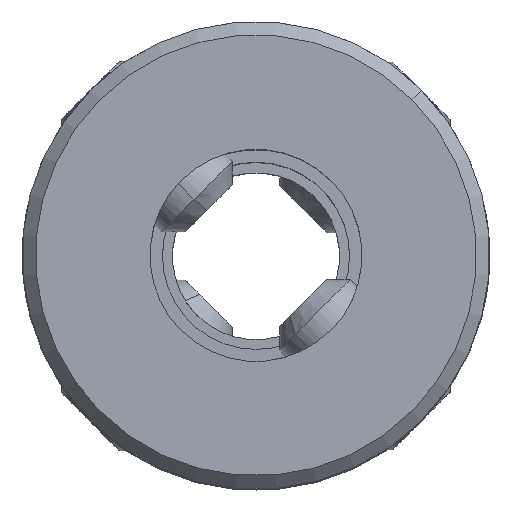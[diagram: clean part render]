
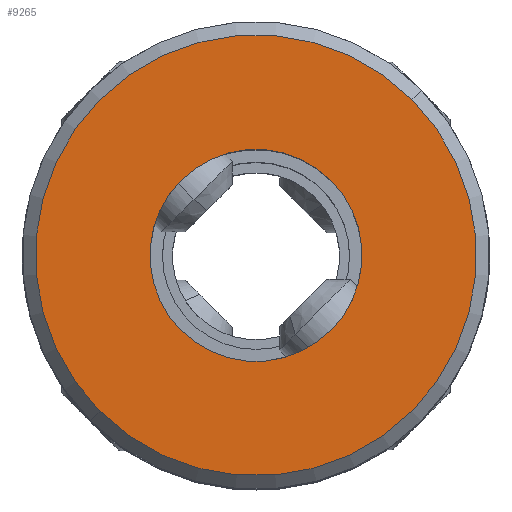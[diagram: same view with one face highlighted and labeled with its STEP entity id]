
A CAD part, top view. The second image highlights one B-rep face of the part: STEP entity #9265.
In plain terms, the highlighted planar face has unit normal (0, 0, 1).
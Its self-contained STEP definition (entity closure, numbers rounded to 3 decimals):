
#157 = FACE_OUTER_BOUND ( 'NONE', #5051, .T. ) ;
#212 = AXIS2_PLACEMENT_3D ( 'NONE', #8961, #2303, #8926 ) ;
#244 = DIRECTION ( 'NONE',  ( -0.707, -0.707, 0. ) ) ;
#1014 = EDGE_LOOP ( 'NONE', ( #4483, #5687 ) ) ;
#1698 = DIRECTION ( 'NONE',  ( 0., 0., -1. ) ) ;
#1745 = DIRECTION ( 'NONE',  ( -0.707, -0.707, 0. ) ) ;
#1840 = EDGE_CURVE ( 'NONE', #8508, #2582, #6063, .T. ) ;
#1898 = CARTESIAN_POINT ( 'NONE',  ( 0., 0., 11. ) ) ;
#2004 = CARTESIAN_POINT ( 'NONE',  ( -2.245, -2.245, 11. ) ) ;
#2110 = AXIS2_PLACEMENT_3D ( 'NONE', #2495, #1698, #7550 ) ;
#2303 = DIRECTION ( 'NONE',  ( 0., 0., -1. ) ) ;
#2310 = ORIENTED_EDGE ( 'NONE', *, *, #1840, .T. ) ;
#2486 = CARTESIAN_POINT ( 'NONE',  ( 0., 0., 11. ) ) ;
#2495 = CARTESIAN_POINT ( 'NONE',  ( 0., 0., 11. ) ) ;
#2582 = VERTEX_POINT ( 'NONE', #7203 ) ;
#2784 = DIRECTION ( 'NONE',  ( 0., 0., 1. ) ) ;
#3268 = AXIS2_PLACEMENT_3D ( 'NONE', #1898, #2784, #244 ) ;
#4049 = DIRECTION ( 'NONE',  ( -0.707, -0.707, 0. ) ) ;
#4052 = PLANE ( 'NONE',  #212 ) ;
#4208 = FACE_BOUND ( 'NONE', #1014, .T. ) ;
#4483 = ORIENTED_EDGE ( 'NONE', *, *, #5853, .T. ) ;
#5025 = CARTESIAN_POINT ( 'NONE',  ( 0., 0., 11. ) ) ;
#5051 = EDGE_LOOP ( 'NONE', ( #9185, #2310 ) ) ;
#5543 = CARTESIAN_POINT ( 'NONE',  ( 4.667, 4.667, 11. ) ) ;
#5687 = ORIENTED_EDGE ( 'NONE', *, *, #8266, .T. ) ;
#5853 = EDGE_CURVE ( 'NONE', #7697, #7392, #8423, .T. ) ;
#6063 = CIRCLE ( 'NONE', #6086, 6.6 ) ;
#6086 = AXIS2_PLACEMENT_3D ( 'NONE', #2486, #8288, #4049 ) ;
#6274 = EDGE_CURVE ( 'NONE', #2582, #8508, #7275, .T. ) ;
#7203 = CARTESIAN_POINT ( 'NONE',  ( -4.667, -4.667, 11. ) ) ;
#7275 = CIRCLE ( 'NONE', #3268, 6.6 ) ;
#7392 = VERTEX_POINT ( 'NONE', #8121 ) ;
#7488 = CIRCLE ( 'NONE', #2110, 3.175 ) ;
#7550 = DIRECTION ( 'NONE',  ( -0.707, -0.707, 0. ) ) ;
#7697 = VERTEX_POINT ( 'NONE', #2004 ) ;
#8121 = CARTESIAN_POINT ( 'NONE',  ( 2.245, 2.245, 11. ) ) ;
#8266 = EDGE_CURVE ( 'NONE', #7392, #7697, #7488, .T. ) ;
#8288 = DIRECTION ( 'NONE',  ( 0., 0., 1. ) ) ;
#8423 = CIRCLE ( 'NONE', #8765, 3.175 ) ;
#8508 = VERTEX_POINT ( 'NONE', #5543 ) ;
#8765 = AXIS2_PLACEMENT_3D ( 'NONE', #5025, #9984, #1745 ) ;
#8926 = DIRECTION ( 'NONE',  ( -0.707, -0.707, 0. ) ) ;
#8961 = CARTESIAN_POINT ( 'NONE',  ( 0., 0., 11. ) ) ;
#9185 = ORIENTED_EDGE ( 'NONE', *, *, #6274, .T. ) ;
#9265 = ADVANCED_FACE ( 'NONE', ( #157, #4208 ), #4052, .F. ) ;
#9984 = DIRECTION ( 'NONE',  ( 0., 0., -1. ) ) ;
